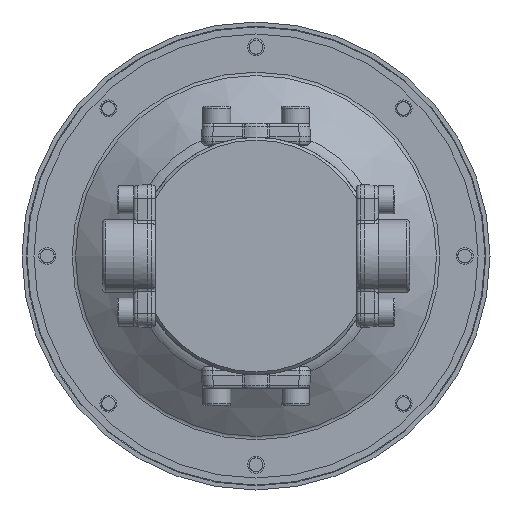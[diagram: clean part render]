
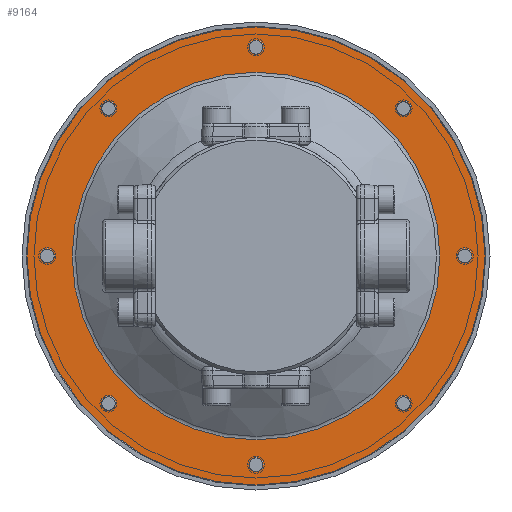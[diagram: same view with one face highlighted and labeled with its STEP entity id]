
A CAD part, front view. The second image highlights one B-rep face of the part: STEP entity #9164.
In plain terms, the highlighted planar face has unit normal (0, -1, 0).
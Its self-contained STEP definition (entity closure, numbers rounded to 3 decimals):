
#1014=FACE_BOUND('',#3228,.T.);
#1015=FACE_BOUND('',#3229,.T.);
#1016=FACE_BOUND('',#3230,.T.);
#1017=FACE_BOUND('',#3231,.T.);
#1018=FACE_BOUND('',#3232,.T.);
#1019=FACE_BOUND('',#3233,.T.);
#1020=FACE_BOUND('',#3234,.T.);
#1021=FACE_BOUND('',#3235,.T.);
#1022=FACE_BOUND('',#3236,.T.);
#1193=PLANE('',#10777);
#2596=FACE_OUTER_BOUND('',#3227,.T.);
#3227=EDGE_LOOP('',(#8248));
#3228=EDGE_LOOP('',(#8249));
#3229=EDGE_LOOP('',(#8250));
#3230=EDGE_LOOP('',(#8251));
#3231=EDGE_LOOP('',(#8252));
#3232=EDGE_LOOP('',(#8253));
#3233=EDGE_LOOP('',(#8254));
#3234=EDGE_LOOP('',(#8255));
#3235=EDGE_LOOP('',(#8256));
#3236=EDGE_LOOP('',(#8257));
#3797=CIRCLE('',#10758,2.459);
#3798=CIRCLE('',#10760,2.459);
#3799=CIRCLE('',#10762,2.459);
#3800=CIRCLE('',#10764,2.459);
#3801=CIRCLE('',#10766,2.459);
#3802=CIRCLE('',#10768,2.459);
#3803=CIRCLE('',#10770,2.459);
#3804=CIRCLE('',#10772,2.459);
#3806=CIRCLE('',#10776,81.5);
#3807=CIRCLE('',#10778,65.402);
#4617=VERTEX_POINT('',#18127);
#4618=VERTEX_POINT('',#18131);
#4619=VERTEX_POINT('',#18135);
#4620=VERTEX_POINT('',#18139);
#4621=VERTEX_POINT('',#18143);
#4622=VERTEX_POINT('',#18147);
#4623=VERTEX_POINT('',#18151);
#4624=VERTEX_POINT('',#18155);
#4626=VERTEX_POINT('',#18162);
#4627=VERTEX_POINT('',#18166);
#5829=EDGE_CURVE('',#4617,#4617,#3797,.T.);
#5831=EDGE_CURVE('',#4618,#4618,#3798,.T.);
#5833=EDGE_CURVE('',#4619,#4619,#3799,.T.);
#5835=EDGE_CURVE('',#4620,#4620,#3800,.T.);
#5837=EDGE_CURVE('',#4621,#4621,#3801,.T.);
#5839=EDGE_CURVE('',#4622,#4622,#3802,.T.);
#5841=EDGE_CURVE('',#4623,#4623,#3803,.T.);
#5843=EDGE_CURVE('',#4624,#4624,#3804,.T.);
#5846=EDGE_CURVE('',#4626,#4626,#3806,.T.);
#5848=EDGE_CURVE('',#4627,#4627,#3807,.T.);
#8248=ORIENTED_EDGE('',*,*,#5846,.T.);
#8249=ORIENTED_EDGE('',*,*,#5831,.T.);
#8250=ORIENTED_EDGE('',*,*,#5843,.T.);
#8251=ORIENTED_EDGE('',*,*,#5839,.T.);
#8252=ORIENTED_EDGE('',*,*,#5835,.T.);
#8253=ORIENTED_EDGE('',*,*,#5837,.T.);
#8254=ORIENTED_EDGE('',*,*,#5841,.T.);
#8255=ORIENTED_EDGE('',*,*,#5833,.T.);
#8256=ORIENTED_EDGE('',*,*,#5829,.T.);
#8257=ORIENTED_EDGE('',*,*,#5848,.F.);
#9164=ADVANCED_FACE('',(#2596,#1014,#1015,#1016,#1017,#1018,#1019,#1020,
#1021,#1022),#1193,.T.);
#10758=AXIS2_PLACEMENT_3D('',#18128,#13187,#13188);
#10760=AXIS2_PLACEMENT_3D('',#18132,#13192,#13193);
#10762=AXIS2_PLACEMENT_3D('',#18136,#13197,#13198);
#10764=AXIS2_PLACEMENT_3D('',#18140,#13202,#13203);
#10766=AXIS2_PLACEMENT_3D('',#18144,#13207,#13208);
#10768=AXIS2_PLACEMENT_3D('',#18148,#13212,#13213);
#10770=AXIS2_PLACEMENT_3D('',#18152,#13217,#13218);
#10772=AXIS2_PLACEMENT_3D('',#18156,#13222,#13223);
#10776=AXIS2_PLACEMENT_3D('',#18163,#13231,#13232);
#10777=AXIS2_PLACEMENT_3D('',#18165,#13234,#13235);
#10778=AXIS2_PLACEMENT_3D('',#18167,#13236,#13237);
#13187=DIRECTION('center_axis',(0.,1.,0.));
#13188=DIRECTION('ref_axis',(1.,0.,0.));
#13192=DIRECTION('center_axis',(0.,1.,0.));
#13193=DIRECTION('ref_axis',(1.,0.,0.));
#13197=DIRECTION('center_axis',(0.,1.,0.));
#13198=DIRECTION('ref_axis',(1.,0.,0.));
#13202=DIRECTION('center_axis',(0.,1.,0.));
#13203=DIRECTION('ref_axis',(1.,0.,0.));
#13207=DIRECTION('center_axis',(0.,1.,0.));
#13208=DIRECTION('ref_axis',(1.,0.,0.));
#13212=DIRECTION('center_axis',(0.,1.,0.));
#13213=DIRECTION('ref_axis',(1.,0.,0.));
#13217=DIRECTION('center_axis',(0.,1.,0.));
#13218=DIRECTION('ref_axis',(1.,0.,0.));
#13222=DIRECTION('center_axis',(0.,1.,0.));
#13223=DIRECTION('ref_axis',(1.,0.,0.));
#13231=DIRECTION('center_axis',(0.,-1.,0.));
#13232=DIRECTION('ref_axis',(1.,0.,0.));
#13234=DIRECTION('center_axis',(0.,-1.,0.));
#13235=DIRECTION('ref_axis',(0.,0.,
-1.));
#13236=DIRECTION('center_axis',(0.,-1.,0.));
#13237=DIRECTION('ref_axis',(1.,0.,0.));
#18127=CARTESIAN_POINT('',(50.044,16.,52.503));
#18128=CARTESIAN_POINT('Origin',(52.503,16.,52.503));
#18131=CARTESIAN_POINT('',(-54.961,16.,52.503));
#18132=CARTESIAN_POINT('Origin',(-52.503,16.,52.503));
#18135=CARTESIAN_POINT('',(-76.709,16.,0.));
#18136=CARTESIAN_POINT('Origin',(-74.25,16.,0.));
#18139=CARTESIAN_POINT('',(-2.459,16.,74.25));
#18140=CARTESIAN_POINT('Origin',(0.,16.,74.25));
#18143=CARTESIAN_POINT('',(71.792,16.,0.));
#18144=CARTESIAN_POINT('Origin',(74.25,16.,0.));
#18147=CARTESIAN_POINT('',(50.044,16.,-52.503));
#18148=CARTESIAN_POINT('Origin',(52.503,16.,-52.503));
#18151=CARTESIAN_POINT('',(-2.459,16.,-74.25));
#18152=CARTESIAN_POINT('Origin',(0.,16.,-74.25));
#18155=CARTESIAN_POINT('',(-54.961,16.,-52.503));
#18156=CARTESIAN_POINT('Origin',(-52.503,16.,-52.503));
#18162=CARTESIAN_POINT('',(-81.5,16.,0.));
#18163=CARTESIAN_POINT('Origin',(0.,16.,0.));
#18165=CARTESIAN_POINT('Origin',(65.402,16.,0.));
#18166=CARTESIAN_POINT('',(0.,16.,65.402));
#18167=CARTESIAN_POINT('Origin',(0.,16.,0.));
